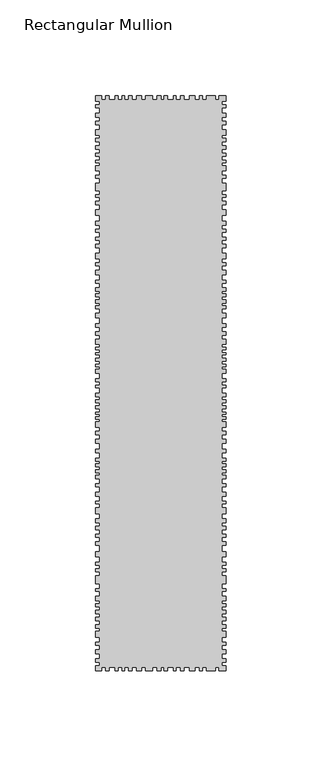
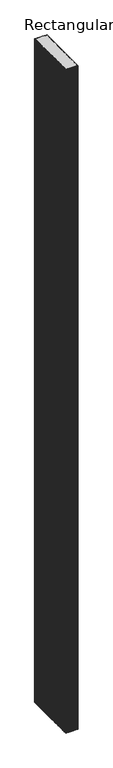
"""IFC4 building model written with IfcOpenShell, lengths in millimetres: member geometry, Rectangular Mullion : DucoSun Cubic Design louvre 300."""

from ifc_helpers import new_model, si_unit, frame, origin, place, context, project, spatial, polyline, outline, extrude, source, transform, mapped, element, save


def rectangular_mullion_0f0b8b28(model_context):
    return source(origin(), model_context, "Body", "SweptSolid", [
        extrude(outline(polyline([(34.0, -297.3782451), (34.0, -300.0), (30.4544414, -300.0), (30.4544414, -298.0), (28.627942, -298.0), (28.627942, -300.0), (23.9842994, -300.0), (23.9842994, -298.0), (21.8172663, -298.0), (21.8172663, -300.0), (20.3003431, -300.0), (20.3003431, -298.0), (17.9475642, -298.0), (17.9475642, -300.0), (14.8827601, -300.0), (14.8827601, -298.0), (12.0965746, -298.0), (12.0965746, -300.0), (10.3939057, -300.0), (10.3939057, -298.0), (8.0101692, -298.0), (8.0101692, -300.0), (6.5242036, -300.0), (6.5242036, -298.0), (3.4884678, -298.0), (3.4884678, -300.0), (1.7094289, -300.0), (1.7094289, -298.0), (0.0, -298.0), (0.0, -300.0), (-1.8486488, -300.0), (-1.8486488, -298.0), (-4.2128978, -298.0), (-4.2128978, -300.0), (-7.9816511, -300.0), (-7.9816511, -298.0), (-10.0415908, -298.0), (-10.0415908, -300.0), (-12.7335575, -300.0), (-12.7335575, -298.0), (-15.0041729, -298.0), (-15.0041729, -300.0), (-16.8768453, -300.0), (-16.8768453, -298.0), (-18.9367851, -298.0), (-18.9367851, -300.0), (-20.2710642, -300.0), (-20.2710642, -298.0), (-22.3075955, -298.0), (-22.3075955, -300.0), (-23.8993671, -300.0), (-23.8993671, -298.0), (-26.9658683, -298.0), (-26.9658683, -300.0), (-28.9321744, -300.0), (-28.9321744, -298.0), (-30.8750721, -298.0), (-30.8750721, -300.0), (-34.0, -300.0), (-34.0, -297.3782451), (-32.0, -297.3782451), (-32.0, -295.4241521), (-34.0, -295.4241521), (-34.0, -293.6532553), (-32.0, -293.6532553), (-32.0, -290.9460223), (-34.0, -290.9460223), (-34.0, -288.9105087), (-32.0, -288.9105087), (-32.0, -286.7121541), (-34.0, -286.7121541), (-34.0, -285.0023227), (-32.0, -285.0023227), (-32.0, -282.3561551), (-34.0, -282.3561551), (-34.0, -279.3843053), (-32.0, -279.3843053), (-32.0, -277.8917893), (-34.0, -277.8917893), (-34.0, -275.8425117), (-32.0, -275.8425117), (-32.0, -273.8680636), (-34.0, -273.8680636), (-34.0, -272.1582322), (-32.0, -272.1582322), (-32.0, -270.0820083), (-34.0, -270.0820083), (-34.0, -268.3111116), (-32.0, -268.3111116), (-32.0, -266.4995045), (-34.0, -266.4995045), (-34.0, -265.0713495), (-32.0, -265.0713495), (-32.0, -263.4577392), (-34.0, -263.4577392), (-34.0, -261.0328231), (-32.0, -261.0328231), (-32.0, -258.5725067), (-34.0, -258.5725067), (-34.0, -257.0325964), (-32.0, -257.0325964), (-32.0, -254.5014796), (-34.0, -254.5014796), (-34.0, -250.4127524), (-32.0, -250.4127524), (-32.0, -248.4126391), (-34.0, -248.4126391), (-34.0, -246.8373286), (-32.0, -246.8373286), (-32.0, -244.9965163), (-34.0, -244.9965163), (-34.0, -243.3504053), (-32.0, -243.3504053), (-32.0, -240.3767855), (-34.0, -240.3767855), (-34.0, -237.9545244), (-32.0, -237.9545244), (-32.0, -234.5552168), (-34.0, -234.5552168), (-34.0, -232.5197032), (-32.0, -232.5197032), (-32.0, -230.239928), (-34.0, -230.239928), (-34.0, -228.6929377), (-32.0, -228.6929377), (-32.0, -226.4335177), (-34.0, -226.4335177), (-34.0, -224.5608452), (-32.0, -224.5608452), (-32.0, -222.6271073), (-34.0, -222.6271073), (-34.0, -220.5508835), (-32.0, -220.5508835), (-32.0, -218.0064916), (-34.0, -218.0064916), (-34.0, -214.9328661), (-32.0, -214.9328661), (-32.0, -212.9177077), (-34.0, -212.9177077), (-34.0, -211.4114277), (-32.0, -211.4114277), (-32.0, -208.9688114), (-34.0, -208.9688114), (-34.0, -206.7118273), (-32.0, -206.7118273), (-32.0, -203.8852623), (-34.0, -203.8852623), (-34.0, -202.4316003), (-32.0, -202.4316003), (-32.0, -199.9011516), (-34.0, -199.9011516), (-34.0, -197.8552569), (-32.0, -197.8552569), (-32.0, -196.6169522), (-34.0, -196.6169522), (-34.0, -195.0825312), (-32.0, -195.0825312), (-32.0, -193.4673512), (-34.0, -193.4673512), (-34.0, -192.0675286), (-32.0, -192.0675286), (-32.0, -190.5869469), (-34.0, -190.5869469), (-34.0, -189.1602046), (-32.0, -189.1602046), (-32.0, -186.3310055), (-34.0, -186.3310055), (-34.0, -184.2608252), (-32.0, -184.2608252), (-32.0, -181.1919832), (-34.0, -181.1919832), (-34.0, -179.2537672), (-32.0, -179.2537672), (-32.0, -176.9360418), (-34.0, -176.9360418), (-34.0, -175.0004598), (-32.0, -175.0004598), (-32.0, -172.9007258), (-34.0, -172.9007258), (-34.0, -170.1010805), (-32.0, -170.1010805), (-32.0, -168.8089365), (-34.0, -168.8089365), (-34.0, -167.3014351), (-32.0, -167.3014351), (-32.0, -166.0362108), (-34.0, -166.0362108), (-34.0, -165.0401831), (-32.0, -165.0401831), (-32.0, -163.2096458), (-34.0, -163.2096458), (-34.0, -161.6483051), (-32.0, -161.6483051), (-32.0, -160.1408038), (-34.0, -160.1408038), (-34.0, -158.6063828), (-32.0, -158.6063828), (-32.0, -157.0719618), (-34.0, -157.0719618), (-34.0, -155.0799064), (-32.0, -155.0799064), (-32.0, -152.3762692), (-34.0, -152.3762692), (-34.0, -150.8903036), (-32.0, -150.8903036), (-32.0, -149.1257194), (-34.0, -149.1257194), (-34.0, -147.6087962), (-32.0, -147.6087962), (-32.0, -144.8535683), (-34.0, -144.8535683), (-34.0, -142.7484504), (-32.0, -142.7484504), (-32.0, -141.4172729), (-34.0, -141.4172729), (-34.0, -139.9622649), (-32.0, -139.9622649), (-32.0, -138.3524688), (-34.0, -138.3524688), (-34.0, -136.8355456), (-32.0, -136.8355456), (-32.0, -135.1947919), (-34.0, -135.1947919), (-34.0, -133.9255296), (-32.0, -133.9255296), (-32.0, -132.5014792), (-34.0, -132.5014792), (-34.0, -131.1083865), (-32.0, -131.1083865), (-32.0, -129.6843361), (-34.0, -129.6843361), (-34.0, -127.0529387), (-32.0, -127.0529387), (-32.0, -124.9787784), (-34.0, -124.9787784), (-34.0, -123.0284485), (-32.0, -123.0284485), (-32.0, -120.7995001), (-34.0, -120.7995001), (-34.0, -118.8182126), (-32.0, -118.8182126), (-32.0, -115.6914933), (-34.0, -115.6914933), (-34.0, -113.4935025), (-32.0, -113.4935025), (-32.0, -110.954978), (-34.0, -110.954978), (-34.0, -109.4070971), (-32.0, -109.4070971), (-32.0, -108.1378348), (-34.0, -108.1378348), (-34.0, -106.4970812), (-32.0, -106.4970812), (-32.0, -104.8253698), (-34.0, -104.8253698), (-34.0, -103.3394042), (-32.0, -103.3394042), (-32.0, -102.0391843), (-34.0, -102.0391843), (-34.0, -100.0578969), (-32.0, -100.0578969), (-32.0, -97.6741604), (-34.0, -97.6741604), (-34.0, -96.0953219), (-32.0, -96.0953219), (-32.0, -93.3091364), (-34.0, -93.3091364), (-34.0, -91.0182728), (-32.0, -91.0182728), (-32.0, -88.572621), (-34.0, -88.572621), (-34.0, -87.1485707), (-32.0, -87.1485707), (-32.0, -85.0124951), (-34.0, -85.0124951), (-34.0, -82.1643944), (-32.0, -82.1643944), (-32.0, -79.3782089), (-34.0, -79.3782089), (-34.0, -77.427879), (-32.0, -77.427879), (-32.0, -75.4156339), (-34.0, -75.4156339), (-34.0, -73.6510498), (-32.0, -73.6510498), (-32.0, -71.1744404), (-34.0, -71.1744404), (-34.0, -69.6884748), (-32.0, -69.6884748), (-32.0, -67.5523993), (-34.0, -67.5523993), (-34.0, -65.4163237), (-32.0, -65.4163237), (-32.0, -62.1967316), (-34.0, -62.1967316), (-34.0, -59.5343765), (-32.0, -59.5343765), (-32.0, -56.7791486), (-34.0, -56.7791486), (-34.0, -55.0764797), (-32.0, -55.0764797), (-32.0, -52.9404041), (-34.0, -52.9404041), (-34.0, -51.6092266), (-32.0, -51.6092266), (-32.0, -49.5660239), (-34.0, -49.5660239), (-34.0, -45.512038), (-32.0, -45.512038), (-32.0, -43.0030092), (-34.0, -43.0030092), (-34.0, -41.3312979), (-32.0, -41.3312979), (-32.0, -39.0404342), (-34.0, -39.0404342), (-34.0, -36.5638249), (-32.0, -36.5638249), (-32.0, -35.015944), (-34.0, -35.015944), (-34.0, -33.5609361), (-32.0, -33.5609361), (-32.0, -31.5796486), (-34.0, -31.5796486), (-34.0, -30.0627254), (-32.0, -30.0627254), (-32.0, -27.8337769), (-34.0, -27.8337769), (-34.0, -26.1620656), (-32.0, -26.1620656), (-32.0, -24.0259901), (-34.0, -24.0259901), (-34.0, -22.0756602), (-32.0, -22.0756602), (-32.0, -20.6516099), (-34.0, -20.6516099), (-34.0, -17.7415939), (-32.0, -17.7415939), (-32.0, -15.2030693), (-34.0, -15.2030693), (-34.0, -13.1908242), (-32.0, -13.1908242), (-32.0, -11.2404944), (-34.0, -11.2404944), (-34.0, -9.1353764), (-32.0, -9.1353764), (-32.0, -6.2563181), (-34.0, -6.2563181), (-34.0, -4.6155644), (-32.0, -4.6155644), (-32.0, -2.8509802), (-34.0, -2.8509802), (-34.0, 0.0), (-30.8750721, 0.0), (-30.8750721, -2.0), (-28.9321744, -2.0), (-28.9321744, 0.0), (-26.9658683, 0.0), (-26.9658683, -2.0), (-23.8993671, -2.0), (-23.8993671, 0.0), (-22.3075955, 0.0), (-22.3075955, -2.0), (-20.2710642, -2.0), (-20.2710642, 0.0), (-18.9367851, 0.0), (-18.9367851, -2.0), (-16.8768453, -2.0), (-16.8768453, 0.0), (-15.0041729, 0.0), (-15.0041729, -2.0), (-12.7335575, -2.0), (-12.7335575, 0.0), (-10.0415908, 0.0), (-10.0415908, -2.0), (-7.9816511, -2.0), (-7.9816511, 0.0), (-4.2128978, 0.0), (-4.2128978, -2.0), (-1.8486488, -2.0), (-1.8486488, 0.0), (0.0, 0.0), (0.0, -2.0), (1.7094289, -2.0), (1.7094289, 0.0), (3.4884678, 0.0), (3.4884678, -2.0), (6.5242036, -2.0), (6.5242036, 0.0), (8.0101692, 0.0), (8.0101692, -2.0), (10.3939057, -2.0), (10.3939057, 0.0), (12.0965746, 0.0), (12.0965746, -2.0), (14.8827601, -2.0), (14.8827601, 0.0), (17.9475642, 0.0), (17.9475642, -2.0), (20.3003431, -2.0), (20.3003431, 0.0), (21.8172663, 0.0), (21.8172663, -2.0), (23.9842994, -2.0), (23.9842994, 0.0), (28.627942, 0.0), (28.627942, -2.0), (30.4544414, -2.0), (30.4544414, 0.0), (34.0, 0.0), (34.0, -2.8509802), (32.0, -2.8509802), (32.0, -4.6155644), (34.0, -4.6155644), (34.0, -6.2563181), (32.0, -6.2563181), (32.0, -9.1353764), (34.0, -9.1353764), (34.0, -11.2404944), (32.0, -11.2404944), (32.0, -13.1908242), (34.0, -13.1908242), (34.0, -15.2030693), (32.0, -15.2030693), (32.0, -17.7415939), (34.0, -17.7415939), (34.0, -20.6516099), (32.0, -20.6516099), (32.0, -22.0756602), (34.0, -22.0756602), (34.0, -24.0259901), (32.0, -24.0259901), (32.0, -26.1620656), (34.0, -26.1620656), (34.0, -27.8337769), (32.0, -27.8337769), (32.0, -30.0627254), (34.0, -30.0627254), (34.0, -31.5796486), (32.0, -31.5796486), (32.0, -33.5609361), (34.0, -33.5609361), (34.0, -35.015944), (32.0, -35.015944), (32.0, -36.5638249), (34.0, -36.5638249), (34.0, -39.0404342), (32.0, -39.0404342), (32.0, -41.3312979), (34.0, -41.3312979), (34.0, -43.0030092), (32.0, -43.0030092), (32.0, -45.512038), (34.0, -45.512038), (34.0, -49.5660239), (32.0, -49.5660239), (32.0, -51.6092266), (34.0, -51.6092266), (34.0, -52.9404041), (32.0, -52.9404041), (32.0, -55.0764797), (34.0, -55.0764797), (34.0, -56.7791486), (32.0, -56.7791486), (32.0, -59.5343765), (34.0, -59.5343765), (34.0, -62.1967316), (32.0, -62.1967316), (32.0, -65.4163237), (34.0, -65.4163237), (34.0, -67.5523993), (32.0, -67.5523993), (32.0, -69.6884748), (34.0, -69.6884748), (34.0, -71.1744404), (32.0, -71.1744404), (32.0, -73.6510498), (34.0, -73.6510498), (34.0, -75.4156339), (32.0, -75.4156339), (32.0, -77.427879), (34.0, -77.427879), (34.0, -79.3782089), (32.0, -79.3782089), (32.0, -82.1643944), (34.0, -82.1643944), (34.0, -85.0124951), (32.0, -85.0124951), (32.0, -87.1485707), (34.0, -87.1485707), (34.0, -88.572621), (32.0, -88.572621), (32.0, -91.0182728), (34.0, -91.0182728), (34.0, -93.3091364), (32.0, -93.3091364), (32.0, -96.0953219), (34.0, -96.0953219), (34.0, -97.6741604), (32.0, -97.6741604), (32.0, -100.0578969), (34.0, -100.0578969), (34.0, -102.0391843), (32.0, -102.0391843), (32.0, -103.3394042), (34.0, -103.3394042), (34.0, -104.8253698), (32.0, -104.8253698), (32.0, -106.4970812), (34.0, -106.4970812), (34.0, -108.1378348), (32.0, -108.1378348), (32.0, -109.4070971), (34.0, -109.4070971), (34.0, -110.954978), (32.0, -110.954978), (32.0, -113.4935025), (34.0, -113.4935025), (34.0, -115.6914933), (32.0, -115.6914933), (32.0, -118.8182126), (34.0, -118.8182126), (34.0, -120.7995001), (32.0, -120.7995001), (32.0, -123.0284485), (34.0, -123.0284485), (34.0, -124.9787784), (32.0, -124.9787784), (32.0, -127.0529387), (34.0, -127.0529387), (34.0, -129.6843361), (32.0, -129.6843361), (32.0, -131.1083865), (34.0, -131.1083865), (34.0, -132.5014792), (32.0, -132.5014792), (32.0, -133.9255296), (34.0, -133.9255296), (34.0, -135.1947919), (32.0, -135.1947919), (32.0, -136.8355456), (34.0, -136.8355456), (34.0, -138.3524688), (32.0, -138.3524688), (32.0, -139.9622649), (34.0, -139.9622649), (34.0, -141.4172729), (32.0, -141.4172729), (32.0, -142.7484504), (34.0, -142.7484504), (34.0, -144.8535683), (32.0, -144.8535683), (32.0, -147.6087962), (34.0, -147.6087962), (34.0, -149.1257194), (32.0, -149.1257194), (32.0, -150.8903036), (34.0, -150.8903036), (34.0, -152.3762692), (32.0, -152.3762692), (32.0, -155.0799064), (34.0, -155.0799064), (34.0, -157.0719618), (32.0, -157.0719618), (32.0, -158.6063828), (34.0, -158.6063828), (34.0, -160.1408038), (32.0, -160.1408038), (32.0, -161.6483051), (34.0, -161.6483051), (34.0, -163.2096458), (32.0, -163.2096458), (32.0, -165.0401831), (34.0, -165.0401831), (34.0, -166.0362108), (32.0, -166.0362108), (32.0, -167.3014351), (34.0, -167.3014351), (34.0, -168.8089365), (32.0, -168.8089365), (32.0, -170.1010805), (34.0, -170.1010805), (34.0, -172.9007258), (32.0, -172.9007258), (32.0, -175.0004598), (34.0, -175.0004598), (34.0, -176.9360418), (32.0, -176.9360418), (32.0, -179.2537672), (34.0, -179.2537672), (34.0, -181.1919832), (32.0, -181.1919832), (32.0, -184.2608252), (34.0, -184.2608252), (34.0, -186.3310055), (32.0, -186.3310055), (32.0, -189.1602046), (34.0, -189.1602046), (34.0, -190.5869469), (32.0, -190.5869469), (32.0, -192.0675286), (34.0, -192.0675286), (34.0, -193.4673512), (32.0, -193.4673512), (32.0, -195.0825312), (34.0, -195.0825312), (34.0, -196.6169522), (32.0, -196.6169522), (32.0, -197.8552569), (34.0, -197.8552569), (34.0, -199.9011516), (32.0, -199.9011516), (32.0, -202.4316003), (34.0, -202.4316003), (34.0, -203.8852623), (32.0, -203.8852623), (32.0, -206.7118273), (34.0, -206.7118273), (34.0, -208.9688114), (32.0, -208.9688114), (32.0, -211.4114277), (34.0, -211.4114277), (34.0, -212.9177077), (32.0, -212.9177077), (32.0, -214.9328661), (34.0, -214.9328661), (34.0, -218.0064916), (32.0, -218.0064916), (32.0, -220.5508835), (34.0, -220.5508835), (34.0, -222.6271073), (32.0, -222.6271073), (32.0, -224.5608452), (34.0, -224.5608452), (34.0, -226.4335177), (32.0, -226.4335177), (32.0, -228.6929377), (34.0, -228.6929377), (34.0, -230.239928), (32.0, -230.239928), (32.0, -232.5197032), (34.0, -232.5197032), (34.0, -234.5552168), (32.0, -234.5552168), (32.0, -237.9545244), (34.0, -237.9545244), (34.0, -240.3767855), (32.0, -240.3767855), (32.0, -243.3504053), (34.0, -243.3504053), (34.0, -244.9965163), (32.0, -244.9965163), (32.0, -246.8373286), (34.0, -246.8373286), (34.0, -248.4126391), (32.0, -248.4126391), (32.0, -250.4127524), (34.0, -250.4127524), (34.0, -254.5014796), (32.0, -254.5014796), (32.0, -257.0325964), (34.0, -257.0325964), (34.0, -258.5725067), (32.0, -258.5725067), (32.0, -261.0328231), (34.0, -261.0328231), (34.0, -263.4577392), (32.0, -263.4577392), (32.0, -265.0713495), (34.0, -265.0713495), (34.0, -266.4995045), (32.0, -266.4995045), (32.0, -268.3111116), (34.0, -268.3111116), (34.0, -270.0820083), (32.0, -270.0820083), (32.0, -272.1582322), (34.0, -272.1582322), (34.0, -273.8680636), (32.0, -273.8680636), (32.0, -275.8425117), (34.0, -275.8425117), (34.0, -277.8917893), (32.0, -277.8917893), (32.0, -279.3843053), (34.0, -279.3843053), (34.0, -282.3561551), (32.0, -282.3561551), (32.0, -285.0023227), (34.0, -285.0023227), (34.0, -286.7121541), (32.0, -286.7121541), (32.0, -288.9105087), (34.0, -288.9105087), (34.0, -290.9460223), (32.0, -290.9460223), (32.0, -293.6532553), (34.0, -293.6532553), (34.0, -295.4241521), (32.0, -295.4241521), (32.0, -297.3782451), (34.0, -297.3782451)])), frame((0.0, 0.0, -3900.0), z_axis=(0.0, 0.0, 1.0), x_axis=(1.0, 0.0, 0.0)), (0.0, 0.0, 1.0), 3900.0),
    ])


if __name__ == "__main__":
    model = new_model("IFC4")
    model_context = context("Model", 3, world=origin())
    ifc_project = project(units=[si_unit("LENGTHUNIT", "METRE", prefix="MILLI")], contexts=[model_context])
    site = spatial("IfcSite", under=ifc_project)
    building = spatial("IfcBuilding", under=site)
    placement = place(None, origin())
    rectangular_mullion_shape = rectangular_mullion_0f0b8b28(model_context)
    element("IfcMember", 1, ObjectType="Rectangular Mullion : DucoSun Cubic Design louvre 300", at=placement, inside=building, context=model_context, shape_type="MappedRepresentation", body=[
        mapped(rectangular_mullion_shape, transform((0.0, 0.0, 0.0), x_axis=(1.0, 0.0, 0.0), y_axis=(0.0, 1.0, 0.0), z_axis=(0.0, 0.0, 1.0))),
    ])
    save(model, "model.ifc")
